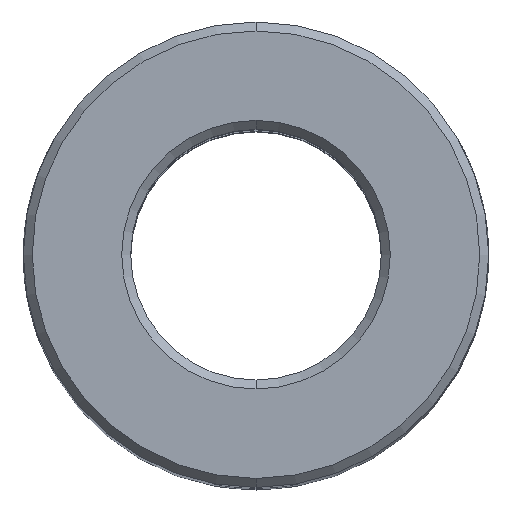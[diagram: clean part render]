
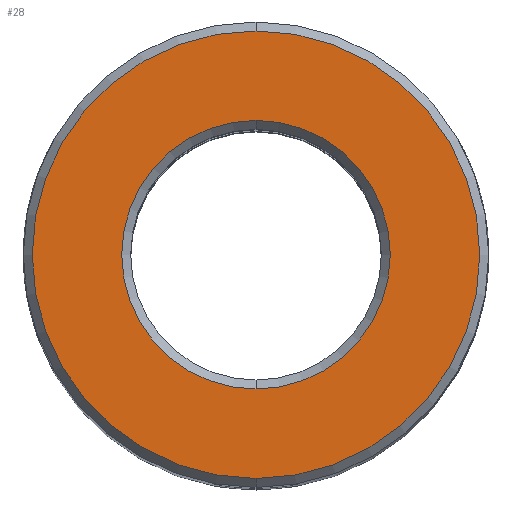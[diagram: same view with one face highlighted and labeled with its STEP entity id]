
A CAD part, top view. The second image highlights one B-rep face of the part: STEP entity #28.
In plain terms, the highlighted planar face has unit normal (0, 0, 1).
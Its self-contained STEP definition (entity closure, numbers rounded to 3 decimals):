
#7 = CIRCLE ( 'NONE', #104, 7.5 ) ;
#28 = ADVANCED_FACE ( 'NONE', ( #219, #462 ), #88, .F. ) ;
#38 = VERTEX_POINT ( 'NONE', #97 ) ;
#84 = VERTEX_POINT ( 'NONE', #356 ) ;
#88 = PLANE ( 'NONE',  #1190 ) ;
#92 = CARTESIAN_POINT ( 'NONE',  ( 0., -12.5, 0. ) ) ;
#97 = CARTESIAN_POINT ( 'NONE',  ( 0., 7.5, 0. ) ) ;
#104 = AXIS2_PLACEMENT_3D ( 'NONE', #711, #110, #820 ) ;
#108 = CARTESIAN_POINT ( 'NONE',  ( 0., 7., 0. ) ) ;
#110 = DIRECTION ( 'NONE',  ( 0., 0., -1. ) ) ;
#135 = DIRECTION ( 'NONE',  ( 0., 0., -1. ) ) ;
#143 = DIRECTION ( 'NONE',  ( 0., 1., 0. ) ) ;
#176 = DIRECTION ( 'NONE',  ( 0., 0., 1. ) ) ;
#197 = ORIENTED_EDGE ( 'NONE', *, *, #508, .T. ) ;
#219 = FACE_BOUND ( 'NONE', #256, .T. ) ;
#256 = EDGE_LOOP ( 'NONE', ( #1045, #1092 ) ) ;
#356 = CARTESIAN_POINT ( 'NONE',  ( 0., -7.5, 0. ) ) ;
#383 = CIRCLE ( 'NONE', #1278, 12.5 ) ;
#393 = DIRECTION ( 'NONE',  ( 0., 1., 0. ) ) ;
#462 = FACE_OUTER_BOUND ( 'NONE', #1252, .T. ) ;
#490 = CARTESIAN_POINT ( 'NONE',  ( 0., 0., 0. ) ) ;
#508 = EDGE_CURVE ( 'NONE', #1270, #530, #383, .T. ) ;
#530 = VERTEX_POINT ( 'NONE', #92 ) ;
#539 = ORIENTED_EDGE ( 'NONE', *, *, #816, .T. ) ;
#598 = AXIS2_PLACEMENT_3D ( 'NONE', #781, #176, #892 ) ;
#627 = CARTESIAN_POINT ( 'NONE',  ( 0., 12.5, 0. ) ) ;
#711 = CARTESIAN_POINT ( 'NONE',  ( 0., 0., 0. ) ) ;
#739 = CARTESIAN_POINT ( 'NONE',  ( 0., 0., 0. ) ) ;
#749 = DIRECTION ( 'NONE',  ( 0., 0., -1. ) ) ;
#752 = DIRECTION ( 'NONE',  ( 0., 1., 0. ) ) ;
#781 = CARTESIAN_POINT ( 'NONE',  ( 0., 0., 0. ) ) ;
#816 = EDGE_CURVE ( 'NONE', #530, #1270, #1000, .T. ) ;
#820 = DIRECTION ( 'NONE',  ( 0., 1., 0. ) ) ;
#856 = CIRCLE ( 'NONE', #925, 7.5 ) ;
#892 = DIRECTION ( 'NONE',  ( 0., 1., 0. ) ) ;
#925 = AXIS2_PLACEMENT_3D ( 'NONE', #739, #749, #752 ) ;
#1000 = CIRCLE ( 'NONE', #598, 12.5 ) ;
#1045 = ORIENTED_EDGE ( 'NONE', *, *, #1266, .T. ) ;
#1092 = ORIENTED_EDGE ( 'NONE', *, *, #1129, .T. ) ;
#1100 = DIRECTION ( 'NONE',  ( 0., 0., 1. ) ) ;
#1129 = EDGE_CURVE ( 'NONE', #38, #84, #7, .T. ) ;
#1190 = AXIS2_PLACEMENT_3D ( 'NONE', #108, #135, #143 ) ;
#1252 = EDGE_LOOP ( 'NONE', ( #197, #539 ) ) ;
#1266 = EDGE_CURVE ( 'NONE', #84, #38, #856, .T. ) ;
#1270 = VERTEX_POINT ( 'NONE', #627 ) ;
#1278 = AXIS2_PLACEMENT_3D ( 'NONE', #490, #1100, #393 ) ;
